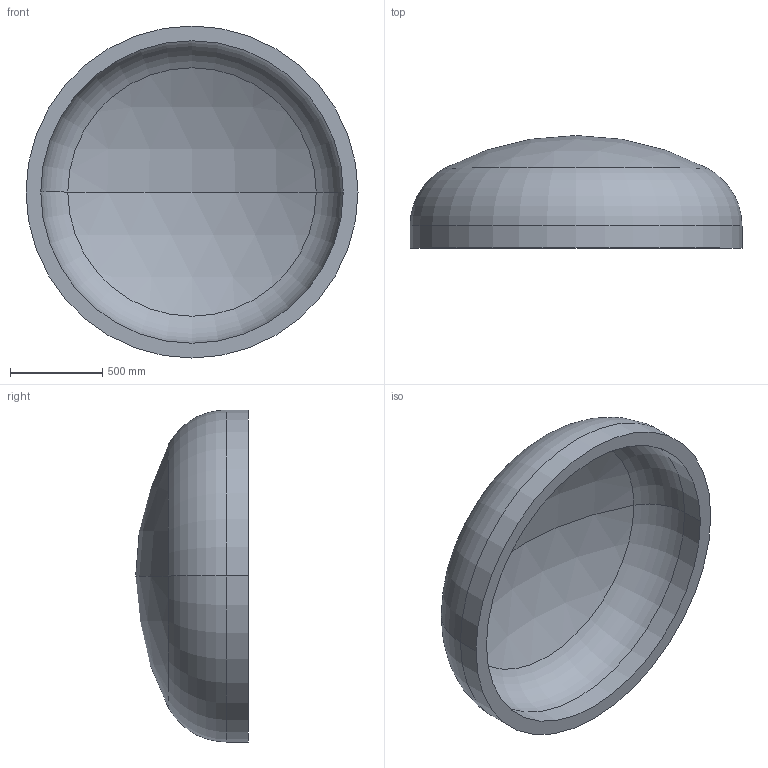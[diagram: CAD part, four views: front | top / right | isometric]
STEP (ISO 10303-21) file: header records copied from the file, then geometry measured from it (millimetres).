
FILE_DESCRIPTION (( 'STEP AP203' ), '1' );
FILE_NAME ('DIN 28013 Korbbogenform_-_Boden DIN 28013 - 1800 x 120 - I - s=80.step', '2016-07-01T12:40:31', ( '' ), ( '' ), 'SwSTEP 2.0', 'SolidWorks 2013', '' );
FILE_SCHEMA (( 'CONFIG_CONTROL_DESIGN' ));
Length unit declared in the file: millimetre
Products named in the file (1): DIN 28013 Korbbogenform_-_Boden DIN 28013 - 1800 x 120 - I - s=80
Bounding box: 1800 x 610.34 x 1800 mm (x, y, z)
Volume: 317670854.2 mm3; surface area: 8387456.5 mm2
Topology: 1 solids, 1 shells, 13 faces, 24 edges, 14 vertices
Faces by surface type: torus 4, cylinder 4, sphere 4, plane 1
Entity records: 407 total; most frequent: DIRECTION 72, CARTESIAN_POINT 52, ORIENTED_EDGE 48, AXIS2_PLACEMENT_3D 34, EDGE_CURVE 24, CIRCLE 20, VERTEX_POINT 14, EDGE_LOOP 14
